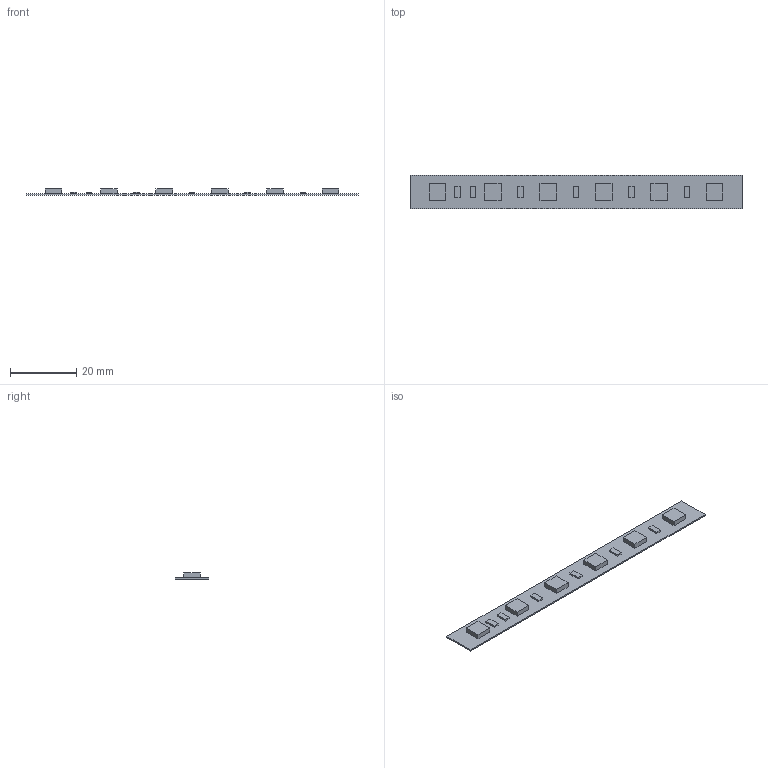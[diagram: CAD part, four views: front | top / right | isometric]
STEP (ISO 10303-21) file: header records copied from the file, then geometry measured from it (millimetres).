
FILE_DESCRIPTION (( 'STEP AP203' ), '1' );
FILE_NAME ('STRONG LED pásek 14,4W_m 24V RGB IP20_284602_3D a 284567_3D a 284566_3D a 284568_3D.STEP', '2020-06-29T09:14:46', ( '' ), ( '' ), 'SwSTEP 2.0', 'SolidWorks 2019', '' );
FILE_SCHEMA (( 'CONFIG_CONTROL_DESIGN' ));
Length unit declared in the file: millimetre
Products named in the file (1): STRONG LED pásek 14,4W_m 24V RGB IP20_284602_3D a 284567_3D a 284566_3D a 284568_3D
Bounding box: 100 x 10 x 1.9 mm (x, y, z)
Volume: 642.8 mm3; surface area: 2299.2 mm2
Topology: 1 solids, 1 shells, 66 faces, 156 edges, 104 vertices
Faces by surface type: plane 66
Entity records: 1937 total; most frequent: CARTESIAN_POINT 327, ORIENTED_EDGE 312, DIRECTION 290, LINE 156, EDGE_CURVE 156, VECTOR 156, VERTEX_POINT 104, EDGE_LOOP 78
